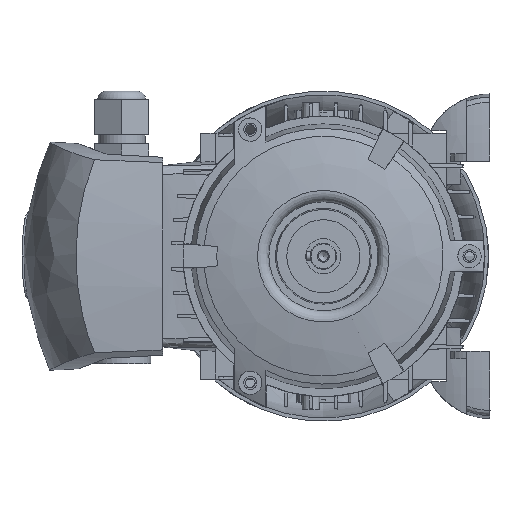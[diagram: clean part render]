
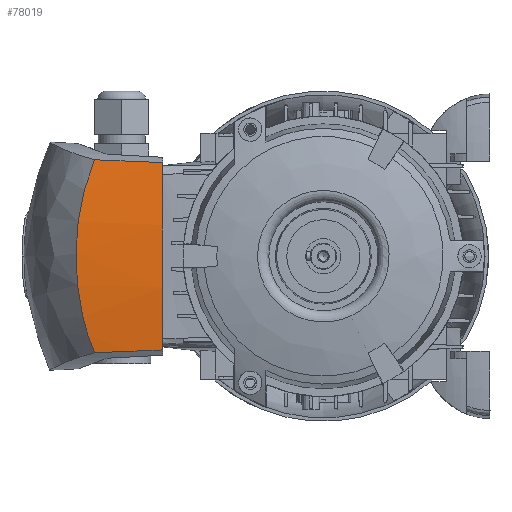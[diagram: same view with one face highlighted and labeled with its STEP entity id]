
A CAD part, left-side view. The second image highlights one B-rep face of the part: STEP entity #78019.
In plain terms, the highlighted conical face has half-angle 3 degrees and reference radius 251.561 mm.
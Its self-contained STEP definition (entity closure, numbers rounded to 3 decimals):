
#70611=CARTESIAN_POINT('',(-38.041,23.224,32.997));
#70612=VERTEX_POINT('',#70611);
#70626=CARTESIAN_POINT('',(-36.938,0.,32.039));
#70627=VERTEX_POINT('',#70626);
#70628=CARTESIAN_POINT('',(-36.938,0.,32.039));
#70629=CARTESIAN_POINT('',(-37.305,7.709,32.358));
#70630=CARTESIAN_POINT('',(-37.672,15.45,32.677));
#70631=CARTESIAN_POINT('',(-38.041,23.224,32.997));
#70632=B_SPLINE_CURVE_WITH_KNOTS('',3,(#70628,#70629,#70630,#70631),.UNSPECIFIED.,.F.,.U.,(4,4),(0.0,1.),.UNSPECIFIED.);
#70633=EDGE_CURVE('',#70627,#70612,#70632,.T.);
#77617=CARTESIAN_POINT('',(-36.938,0.,-32.039));
#77618=VERTEX_POINT('',#77617);
#77619=CARTESIAN_POINT('',(211.0,0.,0.0));
#77620=DIRECTION('',(0.0,1.0,0.0));
#77621=DIRECTION('',(0.0,0.0,1.0));
#77622=AXIS2_PLACEMENT_3D('',#77619,#77620,#77621);
#77623=CIRCLE('',#77622,250.);
#77624=EDGE_CURVE('',#77618,#70627,#77623,.T.);
#77988=CARTESIAN_POINT('',(211.0,29.787,0.0));
#77989=DIRECTION('',(0.0,1.0,0.0));
#77990=DIRECTION('',(0.0,0.0,1.0));
#77991=AXIS2_PLACEMENT_3D('',#77988,#77989,#77990);
#77992=CONICAL_SURFACE('',#77991,251.561,3.);
#77993=CARTESIAN_POINT('',(-38.041,23.224,-32.997));
#77994=VERTEX_POINT('',#77993);
#77995=CARTESIAN_POINT('',(-120.209,2170.927,-81.112));
#77996=DIRECTION('',(0.898,0.025,-0.438));
#77997=DIRECTION('',(-0.043,0.999,-0.032));
#77998=AXIS2_PLACEMENT_3D('',#77995,#77996,#77997);
#77999=ELLIPSE('',#77998,3138.283,32.601);
#78000=EDGE_CURVE('',#77618,#77994,#77999,.T.);
#78001=ORIENTED_EDGE('',*,*,#78000,.F.);
#78002=ORIENTED_EDGE('',*,*,#77624,.T.);
#78003=ORIENTED_EDGE('',*,*,#70633,.T.);
#78004=CARTESIAN_POINT('',(-38.041,23.224,32.997));
#78005=CARTESIAN_POINT('',(-38.844,25.484,27.835));
#78006=CARTESIAN_POINT('',(-39.499,27.085,22.197));
#78007=CARTESIAN_POINT('',(-40.336,29.117,11.206));
#78008=CARTESIAN_POINT('',(-40.551,29.606,5.652));
#78009=CARTESIAN_POINT('',(-40.553,29.611,-5.58));
#78010=CARTESIAN_POINT('',(-40.339,29.124,-11.15));
#78011=CARTESIAN_POINT('',(-39.502,27.093,-22.17));
#78012=CARTESIAN_POINT('',(-38.846,25.489,-27.823));
#78013=CARTESIAN_POINT('',(-38.041,23.224,-32.997));
#78014=B_SPLINE_CURVE_WITH_KNOTS('',3,(#78004,#78005,#78006,#78007,#78008,#78009,#78010,#78011,#78012,#78013),.UNSPECIFIED.,.F.,.U.,(4,2,2,2,4),(0.,1.708,3.387,5.071,6.782),.UNSPECIFIED.);
#78015=EDGE_CURVE('',#70612,#77994,#78014,.T.);
#78016=ORIENTED_EDGE('',*,*,#78015,.T.);
#78017=EDGE_LOOP('',(#78001,#78002,#78003,#78016));
#78018=FACE_OUTER_BOUND('',#78017,.T.);
#78019=ADVANCED_FACE('',(#78018),#77992,.T.);
